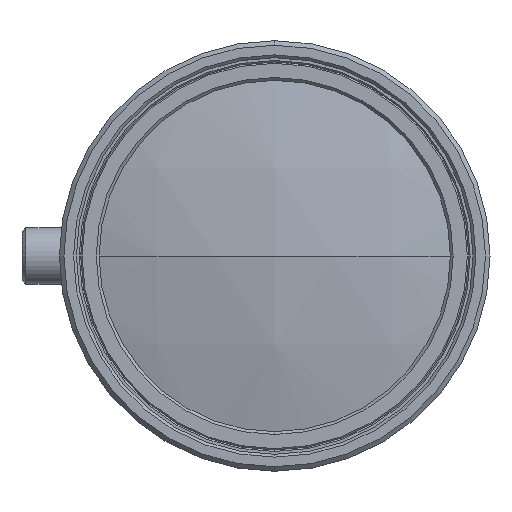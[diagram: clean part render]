
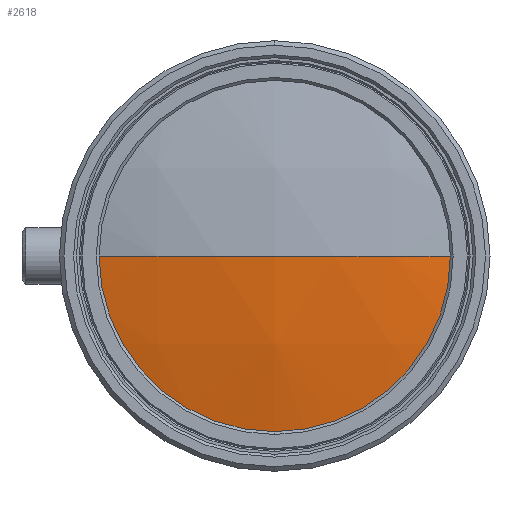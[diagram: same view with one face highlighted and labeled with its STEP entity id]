
A CAD part, left-side view. The second image highlights one B-rep face of the part: STEP entity #2618.
In plain terms, the highlighted spherical face has radius 66.5 mm.
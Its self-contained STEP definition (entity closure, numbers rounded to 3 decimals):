
#25 = AXIS2_PLACEMENT_3D ( 'NONE', #1477, #3523, #1772 ) ;
#253 = AXIS2_PLACEMENT_3D ( 'NONE', #346, #2430, #657 ) ;
#282 = ORIENTED_EDGE ( 'NONE', *, *, #2424, .T. ) ;
#346 = CARTESIAN_POINT ( 'NONE',  ( 5.462, 0., 0. ) ) ;
#520 = FACE_OUTER_BOUND ( 'NONE', #604, .T. ) ;
#604 = EDGE_LOOP ( 'NONE', ( #3166, #282, #1379, #1273 ) ) ;
#657 = DIRECTION ( 'NONE',  ( 0., 0., 1. ) ) ;
#662 = VERTEX_POINT ( 'NONE', #3311 ) ;
#714 = AXIS2_PLACEMENT_3D ( 'NONE', #1097, #3150, #1403 ) ;
#721 = CARTESIAN_POINT ( 'NONE',  ( 5.462, -15.5, 0. ) ) ;
#1097 = CARTESIAN_POINT ( 'NONE',  ( 70.13, 0., 0. ) ) ;
#1134 = DIRECTION ( 'NONE',  ( 0., 0., 1. ) ) ;
#1223 = CIRCLE ( 'NONE', #2185, 66.5 ) ;
#1227 = DIRECTION ( 'NONE',  ( -1., 0., 0. ) ) ;
#1273 = ORIENTED_EDGE ( 'NONE', *, *, #1461, .T. ) ;
#1300 = SPHERICAL_SURFACE ( 'NONE', #25, 66.5 ) ;
#1379 = ORIENTED_EDGE ( 'NONE', *, *, #2148, .F. ) ;
#1403 = DIRECTION ( 'NONE',  ( 0., 1., 0. ) ) ;
#1461 = EDGE_CURVE ( 'NONE', #3601, #662, #1980, .T. ) ;
#1477 = CARTESIAN_POINT ( 'NONE',  ( 70.13, 0., 0. ) ) ;
#1586 = CIRCLE ( 'NONE', #714, 66.5 ) ;
#1772 = DIRECTION ( 'NONE',  ( 0., 1., 0. ) ) ;
#1940 = VERTEX_POINT ( 'NONE', #721 ) ;
#1980 = CIRCLE ( 'NONE', #2206, 15.5 ) ;
#2083 = CIRCLE ( 'NONE', #253, 15.5 ) ;
#2106 = VERTEX_POINT ( 'NONE', #3437 ) ;
#2148 = EDGE_CURVE ( 'NONE', #3601, #2106, #1223, .T. ) ;
#2185 = AXIS2_PLACEMENT_3D ( 'NONE', #2892, #1134, #3184 ) ;
#2206 = AXIS2_PLACEMENT_3D ( 'NONE', #2983, #1227, #3273 ) ;
#2424 = EDGE_CURVE ( 'NONE', #1940, #2106, #1586, .T. ) ;
#2430 = DIRECTION ( 'NONE',  ( -1., 0., 0. ) ) ;
#2618 = ADVANCED_FACE ( 'NONE', ( #520 ), #1300, .T. ) ;
#2782 = CARTESIAN_POINT ( 'NONE',  ( 5.462, 15.5, 0. ) ) ;
#2892 = CARTESIAN_POINT ( 'NONE',  ( 70.13, 0., 0. ) ) ;
#2983 = CARTESIAN_POINT ( 'NONE',  ( 5.462, 0., 0. ) ) ;
#3081 = EDGE_CURVE ( 'NONE', #662, #1940, #2083, .T. ) ;
#3150 = DIRECTION ( 'NONE',  ( 0., 0., -1. ) ) ;
#3166 = ORIENTED_EDGE ( 'NONE', *, *, #3081, .T. ) ;
#3184 = DIRECTION ( 'NONE',  ( 1., 0., 0. ) ) ;
#3273 = DIRECTION ( 'NONE',  ( 0., 0., 1. ) ) ;
#3311 = CARTESIAN_POINT ( 'NONE',  ( 5.462, 0., -15.5 ) ) ;
#3437 = CARTESIAN_POINT ( 'NONE',  ( 3.63, 0., 0. ) ) ;
#3523 = DIRECTION ( 'NONE',  ( 0., 0., -1. ) ) ;
#3601 = VERTEX_POINT ( 'NONE', #2782 ) ;
